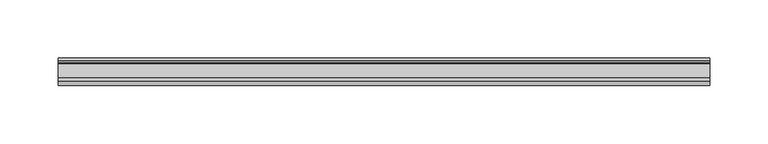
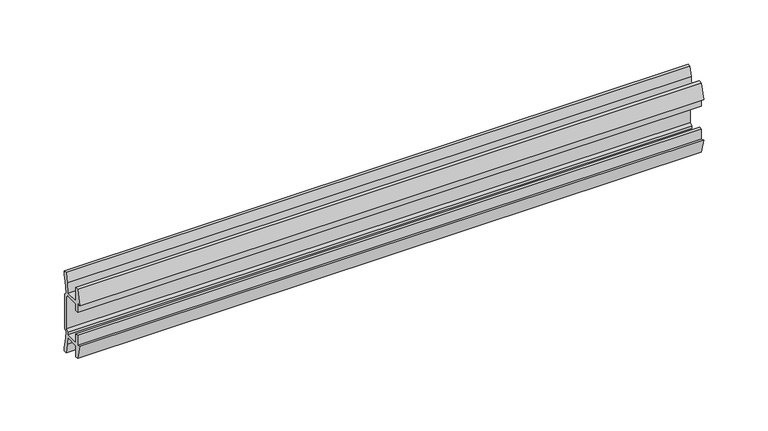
"""IFC4 building model written with IfcOpenShell, lengths in millimetres: furniture geometry, HermanMiller_Compass_TW100_WallRail : 24W x 33H Lower Position."""

from ifc_helpers import new_model, si_unit, point, frame, frame_2d, origin, place, context, project, spatial, polyline, circle_curve, trimmed, segment, composite_curve, outline, extrude, source, transform, mapped, element, save


def furniture_94686434(model_context):
    return source(origin(), model_context, "Body", "SweptSolid", [
        extrude(outline(composite_curve([segment(polyline([(11.858323, 875.8595986), (10.7166987, 869.9001626)]), True, "CONTINUOUS"), segment(trimmed(circle_curve(frame_2d((88.1501042, 855.066568)), 78.8414093), [point((10.7166987, 869.9001626))], [point((9.4546262, 859.8613112))], True, "CARTESIAN"), True, "CONTINUOUS"), segment(polyline([(9.4546262, 859.8613112), (11.4773198, 857.8386177), (11.4773198, 824.9113823), (9.4546262, 822.8886888)]), True, "CONTINUOUS"), segment(trimmed(circle_curve(frame_2d((88.1501042, 827.683432)), 78.8414093), [point((9.4546262, 822.8886888))], [point((10.7166987, 812.8498374))], True, "CARTESIAN"), True, "CONTINUOUS"), segment(polyline([(10.7166987, 812.8498374), (11.858323, 806.8904014), (11.858323, 803.2756449), (9.3183016, 803.2756449), (7.5671861, 812.416709), (6.9977776, 819.1104675), (-5.9218281, 819.1104675), (-5.9218281, 808.5455449), (-8.4618484, 808.5455449), (-11.7914971, 822.0540462), (-8.4618484, 821.0551511), (-8.4618484, 830.5802306), (-5.9218281, 830.5802306), (-5.9218281, 821.690155), (6.7782802, 821.690155), (6.7782802, 824.244689), (8.8976323, 826.0870136), (8.8976323, 856.6660348), (6.7782802, 858.5204685), (-5.2868484, 858.5204685), (-5.2868484, 852.1704144), (-8.4618484, 852.1704144), (-8.4618484, 861.6954939), (-11.858323, 860.4254837), (-8.4618484, 874.2051), (-5.2868484, 874.2051), (-5.2868484, 861.0604899), (6.7782802, 861.0604899), (7.5671861, 870.3345809), (9.3183016, 879.4756449), (11.858323, 879.4756449), (11.858323, 875.8595986)]), True, "CONTINUOUS")], self_intersect=False)), frame((-279.4, 0.0, 0.0), z_axis=(1.0, 0.0, 0.0), x_axis=(0.0, 1.0, 0.0)), (0.0, 0.0, 1.0), 558.8),
    ])


if __name__ == "__main__":
    model = new_model("IFC4")
    model_context = context("Model", 3, world=origin())
    ifc_project = project(units=[si_unit("LENGTHUNIT", "METRE", prefix="MILLI")], contexts=[model_context])
    site = spatial("IfcSite", under=ifc_project)
    building = spatial("IfcBuilding", under=site)
    placement = place(None, origin())
    furniture_shape = furniture_94686434(model_context)
    element("IfcFurniture", 1, ObjectType="HermanMiller_Compass_TW100_WallRail : 24W x 33H Lower Position", at=placement, inside=building, context=model_context, shape_type="MappedRepresentation", body=[
        mapped(furniture_shape, transform((0.0, 0.0, 0.0), x_axis=(1.0, 0.0, 0.0), y_axis=(0.0, 1.0, 0.0), z_axis=(0.0, 0.0, 1.0))),
    ])
    save(model, "model.ifc")
